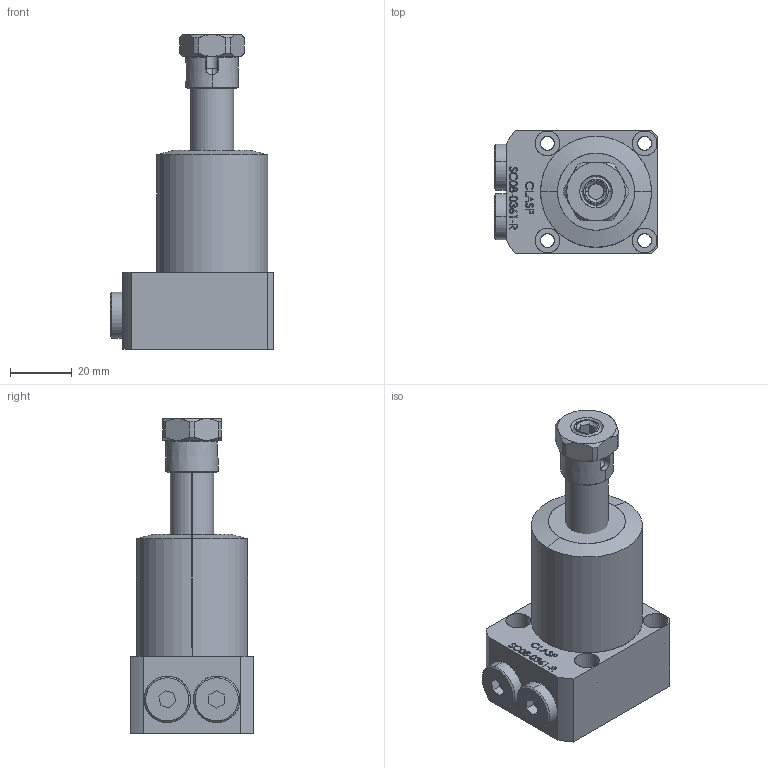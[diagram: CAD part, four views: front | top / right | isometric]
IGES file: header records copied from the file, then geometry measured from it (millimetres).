
Start section: SolidWorks IGES file using analytic representation for surfaces
Global section: file name: D:\karuppas\Clasp\3D model\SWING CYLINDER\bottom mounting swing cylinder\SC08-0361-R\SC08-0361-R.IGS; native system: SolidWorks 2017; preprocessor: SolidWorks 2017; author: pc; date: 220708.224513; units: millimetre
Bounding box: 53 x 40 x 102 mm (x, y, z)
Surface area: 22156.8 mm2 (no closed solid volume)
Topology: 0 solids, 0 shells, 379 faces, 5790 edges, 5789 vertices
Faces by surface type: bspline 274, revolution 105
